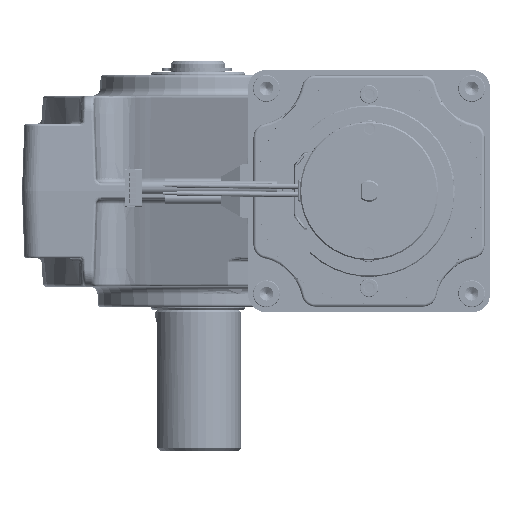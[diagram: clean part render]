
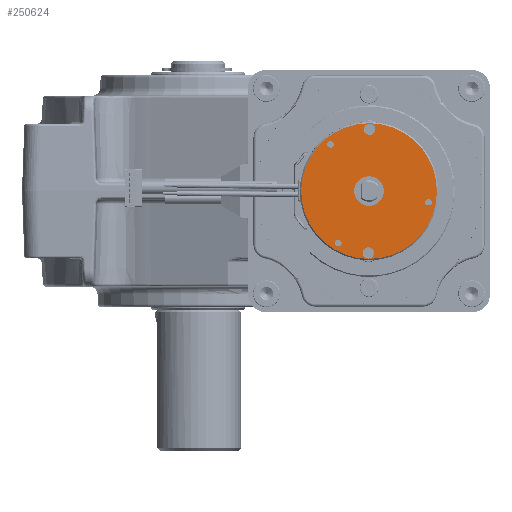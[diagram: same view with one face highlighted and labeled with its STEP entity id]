
A CAD part, left-side view. The second image highlights one B-rep face of the part: STEP entity #250624.
In plain terms, the highlighted planar face has unit normal (-1, 0, 0).
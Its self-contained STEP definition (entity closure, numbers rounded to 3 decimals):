
#2842 = VERTEX_POINT ( 'NONE', #278985 ) ;
#3996 = EDGE_CURVE ( 'NONE', #95868, #478750, #361833, .T. ) ;
#9758 = CARTESIAN_POINT ( 'NONE',  ( -331.459, -16.654, 18.025 ) ) ;
#10841 = DIRECTION ( 'NONE',  ( 0., -0.508, 0.861 ) ) ;
#11869 = CIRCLE ( 'NONE', #138998, 2.1 ) ;
#13509 = DIRECTION ( 'NONE',  ( 1., 0., 0. ) ) ;
#14719 = DIRECTION ( 'NONE',  ( 0., -0.508, 0.861 ) ) ;
#14950 = VERTEX_POINT ( 'NONE', #320331 ) ;
#27288 = DIRECTION ( 'NONE',  ( 0., -0.508, 0.861 ) ) ;
#29322 = CARTESIAN_POINT ( 'NONE',  ( -331.459, -50.21, 33.282 ) ) ;
#37767 = DIRECTION ( 'NONE',  ( 1., 0., 0. ) ) ;
#41234 = CARTESIAN_POINT ( 'NONE',  ( -331.459, -13.169, 53.717 ) ) ;
#42980 = CIRCLE ( 'NONE', #210012, 1.229 ) ;
#48380 = DIRECTION ( 'NONE',  ( 0., -0.508, 0.861 ) ) ;
#52013 = DIRECTION ( 'NONE',  ( 1., 0., 0. ) ) ;
#57850 = FACE_OUTER_BOUND ( 'NONE', #252082, .T. ) ;
#64280 = CARTESIAN_POINT ( 'NONE',  ( -331.459, -28.091, 37.402 ) ) ;
#64931 = CARTESIAN_POINT ( 'NONE',  ( -331.459, -13.794, 54.776 ) ) ;
#65437 = EDGE_CURVE ( 'NONE', #429465, #2842, #231584, .T. ) ;
#69538 = ORIENTED_EDGE ( 'NONE', *, *, #351857, .T. ) ;
#71484 = ORIENTED_EDGE ( 'NONE', *, *, #450446, .T. ) ;
#78420 = DIRECTION ( 'NONE',  ( -1., 0., 0. ) ) ;
#79810 = AXIS2_PLACEMENT_3D ( 'NONE', #418963, #78420, #123067 ) ;
#92129 = VERTEX_POINT ( 'NONE', #213589 ) ;
#94064 = CIRCLE ( 'NONE', #315993, 1.23 ) ;
#95083 = FACE_BOUND ( 'NONE', #348213, .T. ) ;
#95868 = VERTEX_POINT ( 'NONE', #417706 ) ;
#101914 = CARTESIAN_POINT ( 'NONE',  ( -331.459, -28.091, 37.402 ) ) ;
#102459 = CARTESIAN_POINT ( 'NONE',  ( -331.459, -30.886, 42.138 ) ) ;
#103968 = DIRECTION ( 'NONE',  ( 0., -0.508, 0.861 ) ) ;
#103979 = DIRECTION ( 'NONE',  ( 1., 0., 0. ) ) ;
#107207 = DIRECTION ( 'NONE',  ( 1., 0., 0. ) ) ;
#113736 = AXIS2_PLACEMENT_3D ( 'NONE', #9758, #161350, #417570 ) ;
#116003 = CARTESIAN_POINT ( 'NONE',  ( -331.459, -50.21, 33.282 ) ) ;
#123067 = DIRECTION ( 'NONE',  ( 0., -0.508, 0.861 ) ) ;
#128689 = ORIENTED_EDGE ( 'NONE', *, *, #3996, .T. ) ;
#129700 = EDGE_CURVE ( 'NONE', #163075, #336077, #359542, .T. ) ;
#130806 = EDGE_CURVE ( 'NONE', #165357, #284186, #11869, .T. ) ;
#138998 = AXIS2_PLACEMENT_3D ( 'NONE', #236792, #388619, #10841 ) ;
#139327 = VERTEX_POINT ( 'NONE', #426474 ) ;
#144939 = AXIS2_PLACEMENT_3D ( 'NONE', #330845, #107207, #214060 ) ;
#145151 = ORIENTED_EDGE ( 'NONE', *, *, #130806, .T. ) ;
#145878 = ORIENTED_EDGE ( 'NONE', *, *, #458088, .T. ) ;
#146041 = EDGE_LOOP ( 'NONE', ( #470962, #145151 ) ) ;
#160650 = DIRECTION ( 'NONE',  ( 0., -0.508, 0.861 ) ) ;
#161350 = DIRECTION ( 'NONE',  ( 1., 0., 0. ) ) ;
#161429 = EDGE_CURVE ( 'NONE', #444519, #92129, #477697, .T. ) ;
#163075 = VERTEX_POINT ( 'NONE', #223385 ) ;
#165357 = VERTEX_POINT ( 'NONE', #399294 ) ;
#165930 = ORIENTED_EDGE ( 'NONE', *, *, #338646, .T. ) ;
#166037 = AXIS2_PLACEMENT_3D ( 'NONE', #116003, #389280, #160650 ) ;
#178293 = CARTESIAN_POINT ( 'NONE',  ( -331.459, -13.794, 54.776 ) ) ;
#179036 = ORIENTED_EDGE ( 'NONE', *, *, #263887, .T. ) ;
#180913 = DIRECTION ( 'NONE',  ( 0., -0.508, 0.861 ) ) ;
#187851 = ORIENTED_EDGE ( 'NONE', *, *, #243213, .T. ) ;
#193449 = CARTESIAN_POINT ( 'NONE',  ( -331.459, -17.279, 19.084 ) ) ;
#197677 = AXIS2_PLACEMENT_3D ( 'NONE', #238647, #37767, #266148 ) ;
#199804 = AXIS2_PLACEMENT_3D ( 'NONE', #491418, #13509, #48380 ) ;
#205459 = CIRCLE ( 'NONE', #197677, 5.5 ) ;
#210012 = AXIS2_PLACEMENT_3D ( 'NONE', #287887, #52013, #14719 ) ;
#213589 = CARTESIAN_POINT ( 'NONE',  ( -331.459, -15.256, 15.657 ) ) ;
#214060 = DIRECTION ( 'NONE',  ( 0., -0.508, 0.861 ) ) ;
#219028 = PLANE ( 'NONE',  #313557 ) ;
#219924 = CARTESIAN_POINT ( 'NONE',  ( -331.459, -14.419, 55.835 ) ) ;
#222840 = EDGE_LOOP ( 'NONE', ( #145878, #179036 ) ) ;
#223385 = CARTESIAN_POINT ( 'NONE',  ( -331.459, -16.029, 16.966 ) ) ;
#230969 = EDGE_CURVE ( 'NONE', #139327, #14950, #205459, .T. ) ;
#231584 = CIRCLE ( 'NONE', #199804, 2.1 ) ;
#236792 = CARTESIAN_POINT ( 'NONE',  ( -331.459, -27.87, 14.403 ) ) ;
#238647 = CARTESIAN_POINT ( 'NONE',  ( -331.459, -28.091, 37.402 ) ) ;
#239374 = ORIENTED_EDGE ( 'NONE', *, *, #230969, .T. ) ;
#241907 = DIRECTION ( 'NONE',  ( 0., -0.508, 0.861 ) ) ;
#243213 = EDGE_CURVE ( 'NONE', #336077, #163075, #42980, .T. ) ;
#244293 = EDGE_CURVE ( 'NONE', #14950, #139327, #266612, .T. ) ;
#245584 = DIRECTION ( 'NONE',  ( 1., 0., 0. ) ) ;
#250624 = ADVANCED_FACE ( 'NONE', ( #323586, #408125, #326041, #438087, #403249, #95083, #57850 ), #219028, .F. ) ;
#252082 = EDGE_LOOP ( 'NONE', ( #308092, #71484 ) ) ;
#255155 = DIRECTION ( 'NONE',  ( 0., -0.508, 0.861 ) ) ;
#255185 = CARTESIAN_POINT ( 'NONE',  ( -331.459, -28.937, 16.211 ) ) ;
#263887 = EDGE_CURVE ( 'NONE', #328916, #289226, #387894, .T. ) ;
#266148 = DIRECTION ( 'NONE',  ( 0., -0.508, 0.861 ) ) ;
#266612 = CIRCLE ( 'NONE', #338017, 5.5 ) ;
#278985 = CARTESIAN_POINT ( 'NONE',  ( -331.459, -29.379, 62.209 ) ) ;
#284186 = VERTEX_POINT ( 'NONE', #255185 ) ;
#284573 = AXIS2_PLACEMENT_3D ( 'NONE', #178293, #324885, #255155 ) ;
#287887 = CARTESIAN_POINT ( 'NONE',  ( -331.459, -16.654, 18.025 ) ) ;
#289226 = VERTEX_POINT ( 'NONE', #219924 ) ;
#308092 = ORIENTED_EDGE ( 'NONE', *, *, #161429, .T. ) ;
#313557 = AXIS2_PLACEMENT_3D ( 'NONE', #102459, #475238, #370731 ) ;
#315993 = AXIS2_PLACEMENT_3D ( 'NONE', #64931, #393737, #241907 ) ;
#316838 = ORIENTED_EDGE ( 'NONE', *, *, #129700, .T. ) ;
#320331 = CARTESIAN_POINT ( 'NONE',  ( -331.459, -25.295, 32.665 ) ) ;
#320556 = DIRECTION ( 'NONE',  ( -1., 0., 0. ) ) ;
#320913 = EDGE_LOOP ( 'NONE', ( #165930, #128689 ) ) ;
#322021 = AXIS2_PLACEMENT_3D ( 'NONE', #29322, #442017, #180913 ) ;
#323586 = FACE_BOUND ( 'NONE', #146041, .T. ) ;
#324885 = DIRECTION ( 'NONE',  ( 1., 0., 0. ) ) ;
#326041 = FACE_BOUND ( 'NONE', #222840, .T. ) ;
#328916 = VERTEX_POINT ( 'NONE', #41234 ) ;
#330845 = CARTESIAN_POINT ( 'NONE',  ( -331.459, -28.312, 60.401 ) ) ;
#334694 = AXIS2_PLACEMENT_3D ( 'NONE', #101914, #320556, #27288 ) ;
#335709 = EDGE_LOOP ( 'NONE', ( #69538, #357128 ) ) ;
#336077 = VERTEX_POINT ( 'NONE', #193449 ) ;
#338017 = AXIS2_PLACEMENT_3D ( 'NONE', #64280, #103979, #481647 ) ;
#338646 = EDGE_CURVE ( 'NONE', #478750, #95868, #380370, .T. ) ;
#348213 = EDGE_LOOP ( 'NONE', ( #239374, #444056 ) ) ;
#351060 = CARTESIAN_POINT ( 'NONE',  ( -331.459, -27.244, 58.592 ) ) ;
#351857 = EDGE_CURVE ( 'NONE', #2842, #429465, #430522, .T. ) ;
#357128 = ORIENTED_EDGE ( 'NONE', *, *, #65437, .T. ) ;
#359542 = CIRCLE ( 'NONE', #113736, 1.229 ) ;
#361833 = CIRCLE ( 'NONE', #322021, 1.23 ) ;
#362465 = CARTESIAN_POINT ( 'NONE',  ( -331.459, -27.87, 14.403 ) ) ;
#365407 = CIRCLE ( 'NONE', #79810, 25.25 ) ;
#370731 = DIRECTION ( 'NONE',  ( 0., -0.508, 0.861 ) ) ;
#380370 = CIRCLE ( 'NONE', #166037, 1.23 ) ;
#387894 = CIRCLE ( 'NONE', #284573, 1.23 ) ;
#388619 = DIRECTION ( 'NONE',  ( 1., 0., 0. ) ) ;
#389280 = DIRECTION ( 'NONE',  ( 1., 0., 0. ) ) ;
#393737 = DIRECTION ( 'NONE',  ( 1., 0., 0. ) ) ;
#399294 = CARTESIAN_POINT ( 'NONE',  ( -331.459, -26.802, 12.594 ) ) ;
#403249 = FACE_BOUND ( 'NONE', #471771, .T. ) ;
#408125 = FACE_BOUND ( 'NONE', #335709, .T. ) ;
#417570 = DIRECTION ( 'NONE',  ( 0., -0.508, 0.861 ) ) ;
#417706 = CARTESIAN_POINT ( 'NONE',  ( -331.459, -49.585, 32.223 ) ) ;
#418963 = CARTESIAN_POINT ( 'NONE',  ( -331.459, -28.091, 37.402 ) ) ;
#419594 = CARTESIAN_POINT ( 'NONE',  ( -331.459, -50.835, 34.341 ) ) ;
#426474 = CARTESIAN_POINT ( 'NONE',  ( -331.459, -30.886, 42.138 ) ) ;
#429465 = VERTEX_POINT ( 'NONE', #351060 ) ;
#430522 = CIRCLE ( 'NONE', #144939, 2.1 ) ;
#438087 = FACE_BOUND ( 'NONE', #320913, .T. ) ;
#442017 = DIRECTION ( 'NONE',  ( 1., 0., 0. ) ) ;
#444056 = ORIENTED_EDGE ( 'NONE', *, *, #244293, .T. ) ;
#444519 = VERTEX_POINT ( 'NONE', #453548 ) ;
#445261 = AXIS2_PLACEMENT_3D ( 'NONE', #362465, #245584, #103968 ) ;
#450446 = EDGE_CURVE ( 'NONE', #92129, #444519, #365407, .T. ) ;
#452079 = EDGE_CURVE ( 'NONE', #284186, #165357, #484866, .T. ) ;
#453548 = CARTESIAN_POINT ( 'NONE',  ( -331.459, -40.925, 59.146 ) ) ;
#458088 = EDGE_CURVE ( 'NONE', #289226, #328916, #94064, .T. ) ;
#470962 = ORIENTED_EDGE ( 'NONE', *, *, #452079, .T. ) ;
#471771 = EDGE_LOOP ( 'NONE', ( #187851, #316838 ) ) ;
#475238 = DIRECTION ( 'NONE',  ( 1., 0., 0. ) ) ;
#477697 = CIRCLE ( 'NONE', #334694, 25.25 ) ;
#478750 = VERTEX_POINT ( 'NONE', #419594 ) ;
#481647 = DIRECTION ( 'NONE',  ( 0., -0.508, 0.861 ) ) ;
#484866 = CIRCLE ( 'NONE', #445261, 2.1 ) ;
#491418 = CARTESIAN_POINT ( 'NONE',  ( -331.459, -28.312, 60.401 ) ) ;
